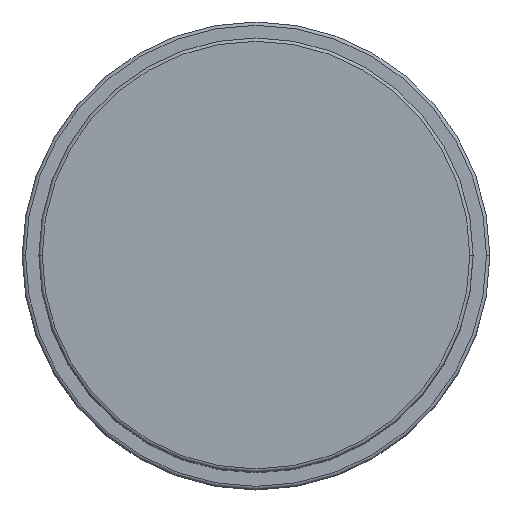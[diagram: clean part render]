
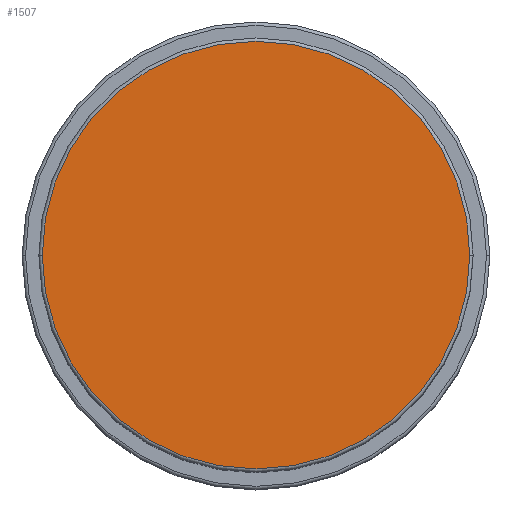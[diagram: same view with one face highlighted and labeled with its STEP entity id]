
A CAD part, top view. The second image highlights one B-rep face of the part: STEP entity #1507.
In plain terms, the highlighted planar face has unit normal (0, 0, 1).
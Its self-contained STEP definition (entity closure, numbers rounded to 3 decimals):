
#70 = AXIS2_PLACEMENT_3D ( 'NONE', #103, #412, #704 ) ;
#102 = CIRCLE ( 'NONE', #715, 32. ) ;
#103 = CARTESIAN_POINT ( 'NONE',  ( 0., 0., 92. ) ) ;
#247 = EDGE_CURVE ( 'NONE', #685, #890, #1796, .T. ) ;
#294 = CARTESIAN_POINT ( 'NONE',  ( 0., 0., 92. ) ) ;
#355 = EDGE_LOOP ( 'NONE', ( #1236, #682 ) ) ;
#412 = DIRECTION ( 'NONE',  ( 0., 0., 1. ) ) ;
#493 = CARTESIAN_POINT ( 'NONE',  ( 32., 0., 92. ) ) ;
#571 = CARTESIAN_POINT ( 'NONE',  ( 0., 0., 92. ) ) ;
#682 = ORIENTED_EDGE ( 'NONE', *, *, #247, .T. ) ;
#685 = VERTEX_POINT ( 'NONE', #1108 ) ;
#704 = DIRECTION ( 'NONE',  ( 1., 0., 0. ) ) ;
#715 = AXIS2_PLACEMENT_3D ( 'NONE', #294, #1872, #736 ) ;
#736 = DIRECTION ( 'NONE',  ( 1., 0., 0. ) ) ;
#890 = VERTEX_POINT ( 'NONE', #493 ) ;
#1061 = PLANE ( 'NONE',  #70 ) ;
#1079 = FACE_OUTER_BOUND ( 'NONE', #355, .T. ) ;
#1108 = CARTESIAN_POINT ( 'NONE',  ( -32., 0., 92. ) ) ;
#1236 = ORIENTED_EDGE ( 'NONE', *, *, #1243, .T. ) ;
#1243 = EDGE_CURVE ( 'NONE', #890, #685, #102, .T. ) ;
#1363 = DIRECTION ( 'NONE',  ( 0., 0., 1. ) ) ;
#1409 = AXIS2_PLACEMENT_3D ( 'NONE', #571, #1363, #1683 ) ;
#1507 = ADVANCED_FACE ( 'NONE', ( #1079 ), #1061, .T. ) ;
#1683 = DIRECTION ( 'NONE',  ( 1., 0., 0. ) ) ;
#1796 = CIRCLE ( 'NONE', #1409, 32. ) ;
#1872 = DIRECTION ( 'NONE',  ( 0., 0., 1. ) ) ;
